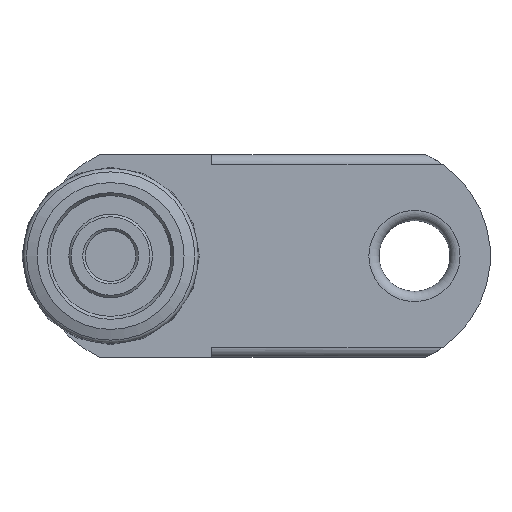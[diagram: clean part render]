
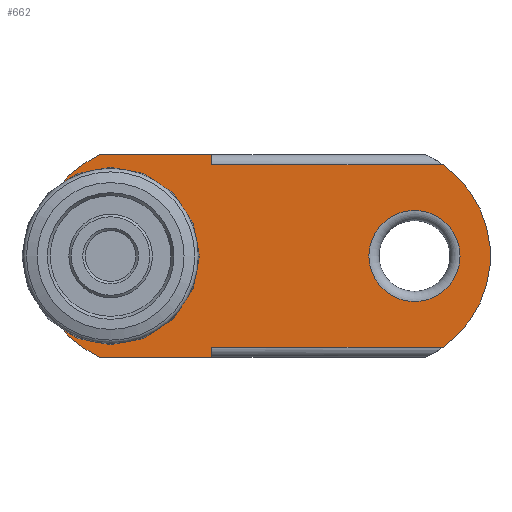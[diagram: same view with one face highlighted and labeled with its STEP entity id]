
A CAD part, left-side view. The second image highlights one B-rep face of the part: STEP entity #662.
In plain terms, the highlighted planar face has unit normal (-1, 0, 0) as drawn and (0, 0, 1) by its records, which use the part's own axes.
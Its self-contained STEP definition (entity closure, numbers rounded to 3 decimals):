
#42=LINE('',#1091,#66);
#43=LINE('',#1094,#67);
#45=LINE('',#1112,#69);
#48=LINE('',#1119,#72);
#55=LINE('',#1149,#79);
#58=LINE('',#1162,#82);
#66=VECTOR('',#851,45.649);
#67=VECTOR('',#854,2.);
#69=VECTOR('',#858,45.649);
#72=VECTOR('',#865,2.);
#79=VECTOR('',#880,22.165);
#82=VECTOR('',#895,22.165);
#126=PLANE('',#738);
#153=FACE_BOUND('',#261,.T.);
#154=FACE_BOUND('',#262,.T.);
#198=FACE_OUTER_BOUND('',#260,.T.);
#260=EDGE_LOOP('',(#559,#560,#561,#562,#563,#564,#565,#566));
#261=EDGE_LOOP('',(#567));
#262=EDGE_LOOP('',(#568));
#318=CIRCLE('',#731,5.05);
#321=CIRCLE('',#737,9.);
#322=CIRCLE('',#739,22.);
#323=CIRCLE('',#740,22.);
#360=VERTEX_POINT('',#1074);
#362=VERTEX_POINT('',#1089);
#363=VERTEX_POINT('',#1093);
#364=VERTEX_POINT('',#1097);
#366=VERTEX_POINT('',#1111);
#368=VERTEX_POINT('',#1117);
#375=VERTEX_POINT('',#1147);
#379=VERTEX_POINT('',#1161);
#380=VERTEX_POINT('',#1166);
#383=VERTEX_POINT('',#1175);
#423=EDGE_CURVE('',#362,#360,#42,.T.);
#424=EDGE_CURVE('',#362,#363,#43,.T.);
#427=EDGE_CURVE('',#366,#364,#45,.T.);
#431=EDGE_CURVE('',#368,#366,#48,.T.);
#440=EDGE_CURVE('',#363,#375,#55,.T.);
#447=EDGE_CURVE('',#379,#368,#58,.T.);
#450=EDGE_CURVE('',#380,#380,#318,.T.);
#453=EDGE_CURVE('',#383,#383,#321,.T.);
#454=EDGE_CURVE('',#375,#379,#322,.T.);
#455=EDGE_CURVE('',#364,#360,#323,.T.);
#559=ORIENTED_EDGE('',*,*,#424,.T.);
#560=ORIENTED_EDGE('',*,*,#440,.T.);
#561=ORIENTED_EDGE('',*,*,#454,.T.);
#562=ORIENTED_EDGE('',*,*,#447,.T.);
#563=ORIENTED_EDGE('',*,*,#431,.T.);
#564=ORIENTED_EDGE('',*,*,#427,.T.);
#565=ORIENTED_EDGE('',*,*,#455,.T.);
#566=ORIENTED_EDGE('',*,*,#423,.F.);
#567=ORIENTED_EDGE('',*,*,#450,.T.);
#568=ORIENTED_EDGE('',*,*,#453,.F.);
#662=ADVANCED_FACE('',(#198,#153,#154),#126,.T.);
#731=AXIS2_PLACEMENT_3D('',#1167,#900,#901);
#737=AXIS2_PLACEMENT_3D('',#1176,#912,#913);
#738=AXIS2_PLACEMENT_3D('',#1177,#914,#915);
#739=AXIS2_PLACEMENT_3D('',#1178,#916,#917);
#740=AXIS2_PLACEMENT_3D('',#1179,#918,#919);
#851=DIRECTION('',(0.,-1.,0.));
#854=DIRECTION('',(1.,0.,0.));
#858=DIRECTION('',(0.,-1.,0.));
#865=DIRECTION('',(1.,0.,0.));
#880=DIRECTION('',(0.,1.,0.));
#895=DIRECTION('',(0.,-1.,0.));
#900=DIRECTION('center_axis',(0.,0.,-1.));
#901=DIRECTION('ref_axis',(1.,0.,0.));
#912=DIRECTION('center_axis',(0.,0.,1.));
#913=DIRECTION('ref_axis',(-1.,0.,0.));
#914=DIRECTION('center_axis',(0.,0.,1.));
#915=DIRECTION('ref_axis',(1.,0.,0.));
#916=DIRECTION('center_axis',(0.,0.,1.));
#917=DIRECTION('ref_axis',(0.909,0.417,0.));
#918=DIRECTION('center_axis',(0.,0.,1.));
#919=DIRECTION('ref_axis',(-0.909,-0.417,0.));
#1074=CARTESIAN_POINT('',(18.,-65.649,0.));
#1089=CARTESIAN_POINT('',(18.,-20.,0.));
#1091=CARTESIAN_POINT('',(18.,-75.,0.));
#1093=CARTESIAN_POINT('',(20.,-20.,0.));
#1094=CARTESIAN_POINT('',(9.694,-20.,0.));
#1097=CARTESIAN_POINT('',(-18.,-65.649,0.));
#1111=CARTESIAN_POINT('',(-18.,-20.,0.));
#1112=CARTESIAN_POINT('',(-18.,-75.,0.));
#1117=CARTESIAN_POINT('',(-20.,-20.,0.));
#1119=CARTESIAN_POINT('',(-9.694,-20.,0.));
#1147=CARTESIAN_POINT('',(20.,2.165,0.));
#1149=CARTESIAN_POINT('',(20.,-62.165,0.));
#1161=CARTESIAN_POINT('',(-20.,2.165,0.));
#1162=CARTESIAN_POINT('',(-20.,2.165,0.));
#1166=CARTESIAN_POINT('',(5.05,0.,0.));
#1167=CARTESIAN_POINT('Origin',(0.,0.,0.));
#1175=CARTESIAN_POINT('',(9.,-60.,0.));
#1176=CARTESIAN_POINT('Origin',(0.,-60.,0.));
#1177=CARTESIAN_POINT('Origin',(0.,-30.,0.));
#1178=CARTESIAN_POINT('Origin',(0.,-7.,0.));
#1179=CARTESIAN_POINT('Origin',(0.,-53.,0.));
